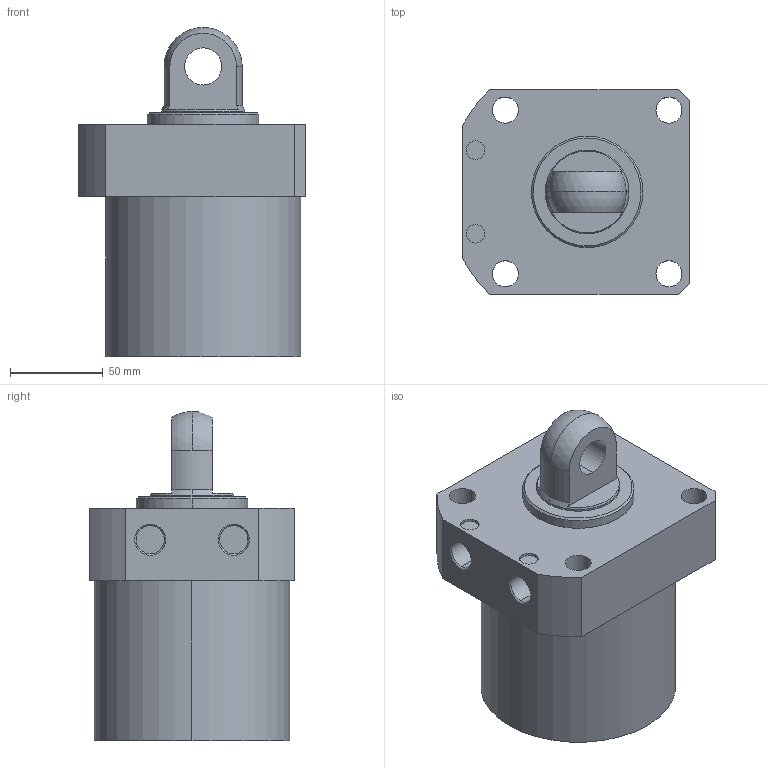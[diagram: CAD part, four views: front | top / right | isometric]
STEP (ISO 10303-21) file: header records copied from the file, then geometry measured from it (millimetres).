
FILE_DESCRIPTION (( 'STEP AP203' ), '1' );
FILE_NAME ('CLLR-105CP-065.STEP', '2019-12-19T02:08:08', ( '' ), ( '' ), 'SwSTEP 2.0', 'SolidWorks 2015', '' );
FILE_SCHEMA (( 'CONFIG_CONTROL_DESIGN' ));
Length unit declared in the file: millimetre
Products named in the file (1): CLLR-105CP-065
Bounding box: 122 x 110 x 177 mm (x, y, z)
Volume: 1270877 mm3; surface area: 86047.6 mm2
Topology: 1 solids, 1 shells, 57 faces, 135 edges, 87 vertices
Faces by surface type: cylinder 29, plane 18, cone 8, sphere 2
Entity records: 1770 total; most frequent: DIRECTION 319, CARTESIAN_POINT 292, ORIENTED_EDGE 270, EDGE_CURVE 135, AXIS2_PLACEMENT_3D 130, VERTEX_POINT 87, EDGE_LOOP 74, CIRCLE 72
